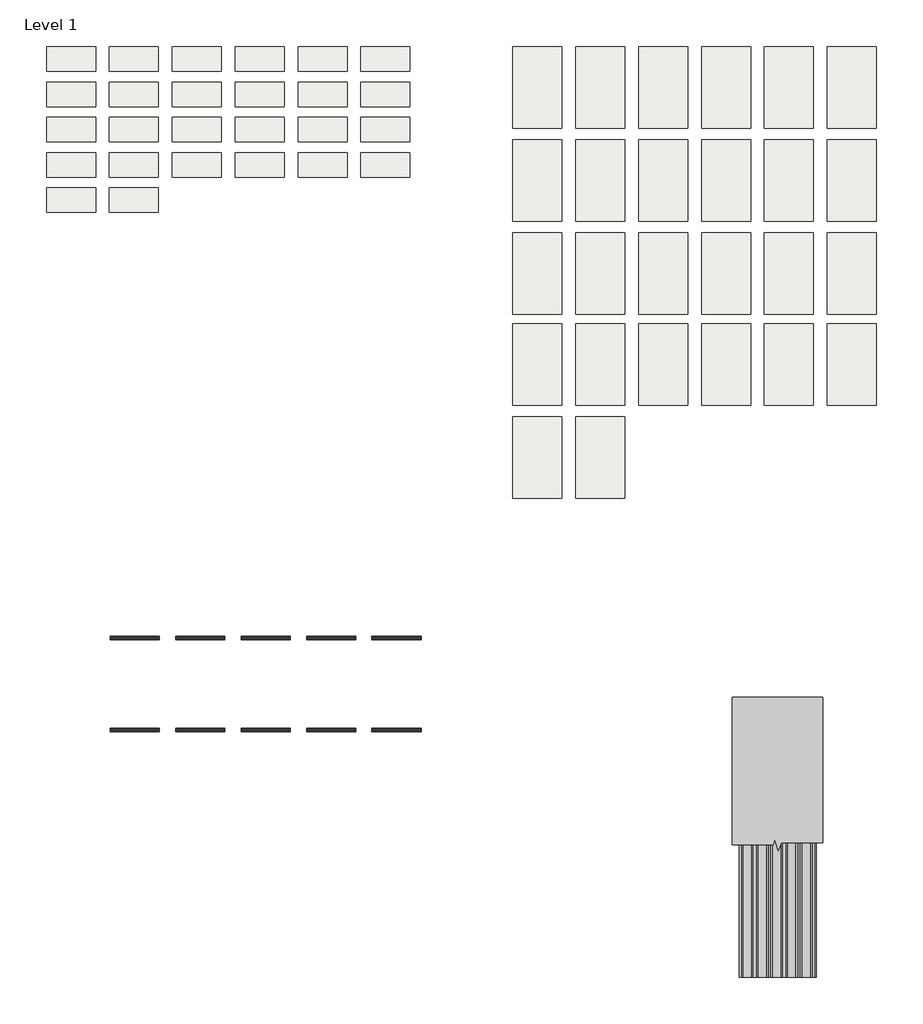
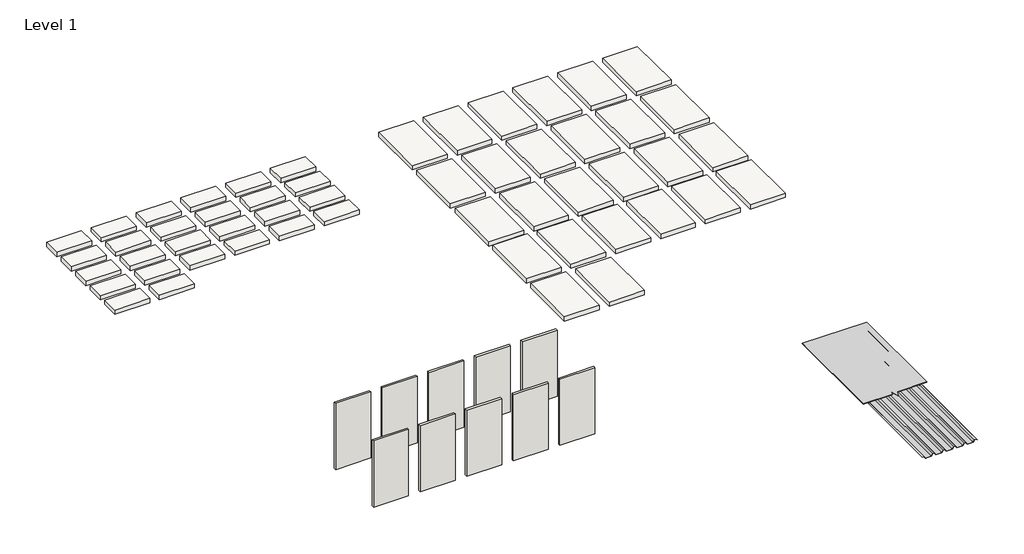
# One storey: 52 slabs, 10 walls, 2 proxies.
"""IFC4 building model written with IfcOpenShell, lengths in millimetres."""

from ifc_helpers import new_model, si_unit, frame, origin, origin_with_axes, place, context, project, spatial, polyline, outline, extrude, transform, mapped, element, save
from components import reversed_box_rib_roofing_panel_reversed_box_rib_roofing_1db7d4b0, section_mask3_section_mask_50256857

model = new_model("IFC4")

# Units and contexts
model_context = context("Model", 3, world=origin())
ifc_project = project(units=[si_unit("LENGTHUNIT", "METRE", prefix="MILLI")], contexts=[model_context])

# Site, building, storey
site = spatial("IfcSite", under=ifc_project)
building = spatial("IfcBuilding", under=site)
storey = spatial("IfcBuildingStorey", under=building, Name="Level 1", Elevation=0.0)

# Proxies
placement = place(None, origin())
reversed_box_rib_roofing_panel_reversed_box_rib_roofing_shape = reversed_box_rib_roofing_panel_reversed_box_rib_roofing_1db7d4b0(model_context)
element("IfcBuildingElementProxy", 1, Name="Reversed_Box_Rib_Roofing_Panel : Reversed_Box_Rib_Roofing_Panel", ObjectType="Reversed_Box_Rib_Roofing_Panel : Reversed_Box_Rib_Roofing_Panel", at=placement, inside=storey, context=model_context, shape_type="MappedRepresentation", body=[
    mapped(reversed_box_rib_roofing_panel_reversed_box_rib_roofing_shape, transform((4154.6424454, -754.1477057, 0.0), x_axis=(1.0, 0.0, 0.0), y_axis=(0.0, 1.0, 0.0), z_axis=(0.0, 0.0, 1.0))),
])
section_mask3_section_mask_shape = section_mask3_section_mask_50256857(model_context)
element("IfcBuildingElementProxy", 2, Name="Section Mask3 : Section Mask", ObjectType="Section Mask3 : Section Mask", at=placement, inside=storey, context=model_context, shape_type="MappedRepresentation", body=[
    mapped(section_mask3_section_mask_shape, transform((-4030.262639, -2993.408036, -1.5875), x_axis=(1.0, 0.0, 0.0), y_axis=(0.0, 1.0, 0.0), z_axis=(0.0, 0.0, 1.0))),
])

# Slabs
element("IfcSlab", 3, ObjectType="AEP Span Material Sample", at=placement, inside=storey, context=model_context, shape_type="SweptSolid", body=[
    extrude(outline(polyline([(-4307.8660775, 7199.3976846), (-4917.4660775, 7199.3976846), (-4917.4660775, 7504.1976846), (-4307.8660775, 7504.1976846), (-4307.8660775, 7199.3976846)])), frame((0.0, 0.0, -79.375), z_axis=(0.0, 0.0, 1.0), x_axis=(1.0, 0.0, 0.0)), (0.0, 0.0, 1.0), 79.375),
])
element("IfcSlab", 4, ObjectType="AEP Span Material Sample", at=placement, inside=storey, context=model_context, shape_type="SweptSolid", body=[
    extrude(outline(polyline([(-3526.8160775, 7199.3976846), (-4136.4160775, 7199.3976846), (-4136.4160775, 7504.1976846), (-3526.8160775, 7504.1976846), (-3526.8160775, 7199.3976846)])), frame((0.0, 0.0, -79.375), z_axis=(0.0, 0.0, 1.0), x_axis=(1.0, 0.0, 0.0)), (0.0, 0.0, 1.0), 79.375),
])
element("IfcSlab", 5, ObjectType="AEP Span Material Sample", at=placement, inside=storey, context=model_context, shape_type="SweptSolid", body=[
    extrude(outline(polyline([(-2745.7660775, 7199.3976846), (-3355.3660775, 7199.3976846), (-3355.3660775, 7504.1976846), (-2745.7660775, 7504.1976846), (-2745.7660775, 7199.3976846)])), frame((0.0, 0.0, -79.375), z_axis=(0.0, 0.0, 1.0), x_axis=(1.0, 0.0, 0.0)), (0.0, 0.0, 1.0), 79.375),
])
element("IfcSlab", 6, ObjectType="AEP Span Material Sample", at=placement, inside=storey, context=model_context, shape_type="SweptSolid", body=[
    extrude(outline(polyline([(-1964.7160775, 7199.3976846), (-2574.3160775, 7199.3976846), (-2574.3160775, 7504.1976846), (-1964.7160775, 7504.1976846), (-1964.7160775, 7199.3976846)])), frame((0.0, 0.0, -79.375), z_axis=(0.0, 0.0, 1.0), x_axis=(1.0, 0.0, 0.0)), (0.0, 0.0, 1.0), 79.375),
])
element("IfcSlab", 7, ObjectType="AEP Span Material Sample", at=placement, inside=storey, context=model_context, shape_type="SweptSolid", body=[
    extrude(outline(polyline([(-1183.6660775, 7199.3976846), (-1793.2660775, 7199.3976846), (-1793.2660775, 7504.1976846), (-1183.6660775, 7504.1976846), (-1183.6660775, 7199.3976846)])), frame((0.0, 0.0, -79.375), z_axis=(0.0, 0.0, 1.0), x_axis=(1.0, 0.0, 0.0)), (0.0, 0.0, 1.0), 79.375),
])
element("IfcSlab", 8, ObjectType="AEP Span Material Sample", at=placement, inside=storey, context=model_context, shape_type="SweptSolid", body=[
    extrude(outline(polyline([(-402.6160775, 7199.3976846), (-1012.2160775, 7199.3976846), (-1012.2160775, 7504.1976846), (-402.6160775, 7504.1976846), (-402.6160775, 7199.3976846)])), frame((0.0, 0.0, -79.375), z_axis=(0.0, 0.0, 1.0), x_axis=(1.0, 0.0, 0.0)), (0.0, 0.0, 1.0), 79.375),
])
element("IfcSlab", 9, ObjectType="AEP Span Material Sample", at=placement, inside=storey, context=model_context, shape_type="SweptSolid", body=[
    extrude(outline(polyline([(-4307.8660775, 6761.2476846), (-4917.4660775, 6761.2476846), (-4917.4660775, 7066.0476846), (-4307.8660775, 7066.0476846), (-4307.8660775, 6761.2476846)])), frame((0.0, 0.0, -79.375), z_axis=(0.0, 0.0, 1.0), x_axis=(1.0, 0.0, 0.0)), (0.0, 0.0, 1.0), 79.375),
])
element("IfcSlab", 10, ObjectType="AEP Span Material Sample", at=placement, inside=storey, context=model_context, shape_type="SweptSolid", body=[
    extrude(outline(polyline([(-3526.8160775, 6761.2476846), (-4136.4160775, 6761.2476846), (-4136.4160775, 7066.0476846), (-3526.8160775, 7066.0476846), (-3526.8160775, 6761.2476846)])), frame((0.0, 0.0, -79.375), z_axis=(0.0, 0.0, 1.0), x_axis=(1.0, 0.0, 0.0)), (0.0, 0.0, 1.0), 79.375),
])
element("IfcSlab", 11, ObjectType="AEP Span Material Sample", at=placement, inside=storey, context=model_context, shape_type="SweptSolid", body=[
    extrude(outline(polyline([(-2745.7660775, 6761.2476846), (-3355.3660775, 6761.2476846), (-3355.3660775, 7066.0476846), (-2745.7660775, 7066.0476846), (-2745.7660775, 6761.2476846)])), frame((0.0, 0.0, -79.375), z_axis=(0.0, 0.0, 1.0), x_axis=(1.0, 0.0, 0.0)), (0.0, 0.0, 1.0), 79.375),
])
element("IfcSlab", 12, ObjectType="AEP Span Material Sample", at=placement, inside=storey, context=model_context, shape_type="SweptSolid", body=[
    extrude(outline(polyline([(-1964.7160775, 6761.2476846), (-2574.3160775, 6761.2476846), (-2574.3160775, 7066.0476846), (-1964.7160775, 7066.0476846), (-1964.7160775, 6761.2476846)])), frame((0.0, 0.0, -79.375), z_axis=(0.0, 0.0, 1.0), x_axis=(1.0, 0.0, 0.0)), (0.0, 0.0, 1.0), 79.375),
])
element("IfcSlab", 13, ObjectType="AEP Span Material Sample", at=placement, inside=storey, context=model_context, shape_type="SweptSolid", body=[
    extrude(outline(polyline([(-1183.6660775, 6761.2476846), (-1793.2660775, 6761.2476846), (-1793.2660775, 7066.0476846), (-1183.6660775, 7066.0476846), (-1183.6660775, 6761.2476846)])), frame((0.0, 0.0, -79.375), z_axis=(0.0, 0.0, 1.0), x_axis=(1.0, 0.0, 0.0)), (0.0, 0.0, 1.0), 79.375),
])
element("IfcSlab", 14, ObjectType="AEP Span Material Sample", at=placement, inside=storey, context=model_context, shape_type="SweptSolid", body=[
    extrude(outline(polyline([(-402.6160775, 6761.2476846), (-1012.2160775, 6761.2476846), (-1012.2160775, 7066.0476846), (-402.6160775, 7066.0476846), (-402.6160775, 6761.2476846)])), frame((0.0, 0.0, -79.375), z_axis=(0.0, 0.0, 1.0), x_axis=(1.0, 0.0, 0.0)), (0.0, 0.0, 1.0), 79.375),
])
element("IfcSlab", 15, ObjectType="AEP Span Material Sample", at=placement, inside=storey, context=model_context, shape_type="SweptSolid", body=[
    extrude(outline(polyline([(-4307.8660775, 6323.0976846), (-4917.4660775, 6323.0976846), (-4917.4660775, 6627.8976846), (-4307.8660775, 6627.8976846), (-4307.8660775, 6323.0976846)])), frame((0.0, 0.0, -79.375), z_axis=(0.0, 0.0, 1.0), x_axis=(1.0, 0.0, 0.0)), (0.0, 0.0, 1.0), 79.375),
])
element("IfcSlab", 16, ObjectType="AEP Span Material Sample", at=placement, inside=storey, context=model_context, shape_type="SweptSolid", body=[
    extrude(outline(polyline([(-3526.8160775, 6323.0976846), (-4136.4160775, 6323.0976846), (-4136.4160775, 6627.8976846), (-3526.8160775, 6627.8976846), (-3526.8160775, 6323.0976846)])), frame((0.0, 0.0, -79.375), z_axis=(0.0, 0.0, 1.0), x_axis=(1.0, 0.0, 0.0)), (0.0, 0.0, 1.0), 79.375),
])
element("IfcSlab", 17, ObjectType="AEP Span Material Sample", at=placement, inside=storey, context=model_context, shape_type="SweptSolid", body=[
    extrude(outline(polyline([(-2745.7660775, 6323.0976846), (-3355.3660775, 6323.0976846), (-3355.3660775, 6627.8976846), (-2745.7660775, 6627.8976846), (-2745.7660775, 6323.0976846)])), frame((0.0, 0.0, -79.375), z_axis=(0.0, 0.0, 1.0), x_axis=(1.0, 0.0, 0.0)), (0.0, 0.0, 1.0), 79.375),
])
element("IfcSlab", 18, ObjectType="AEP Span Material Sample", at=placement, inside=storey, context=model_context, shape_type="SweptSolid", body=[
    extrude(outline(polyline([(-1964.7160775, 6323.0976846), (-2574.3160775, 6323.0976846), (-2574.3160775, 6627.8976846), (-1964.7160775, 6627.8976846), (-1964.7160775, 6323.0976846)])), frame((0.0, 0.0, -79.375), z_axis=(0.0, 0.0, 1.0), x_axis=(1.0, 0.0, 0.0)), (0.0, 0.0, 1.0), 79.375),
])
element("IfcSlab", 19, ObjectType="AEP Span Material Sample", at=placement, inside=storey, context=model_context, shape_type="SweptSolid", body=[
    extrude(outline(polyline([(-1183.6660775, 6323.0976846), (-1793.2660775, 6323.0976846), (-1793.2660775, 6627.8976846), (-1183.6660775, 6627.8976846), (-1183.6660775, 6323.0976846)])), frame((0.0, 0.0, -79.375), z_axis=(0.0, 0.0, 1.0), x_axis=(1.0, 0.0, 0.0)), (0.0, 0.0, 1.0), 79.375),
])
element("IfcSlab", 20, ObjectType="AEP Span Material Sample", at=placement, inside=storey, context=model_context, shape_type="SweptSolid", body=[
    extrude(outline(polyline([(-402.6160775, 6323.0976846), (-1012.2160775, 6323.0976846), (-1012.2160775, 6627.8976846), (-402.6160775, 6627.8976846), (-402.6160775, 6323.0976846)])), frame((0.0, 0.0, -79.375), z_axis=(0.0, 0.0, 1.0), x_axis=(1.0, 0.0, 0.0)), (0.0, 0.0, 1.0), 79.375),
])
element("IfcSlab", 21, ObjectType="AEP Span Material Sample", at=placement, inside=storey, context=model_context, shape_type="SweptSolid", body=[
    extrude(outline(polyline([(-4307.8660775, 5884.9476846), (-4917.4660775, 5884.9476846), (-4917.4660775, 6189.7476846), (-4307.8660775, 6189.7476846), (-4307.8660775, 5884.9476846)])), frame((0.0, 0.0, -79.375), z_axis=(0.0, 0.0, 1.0), x_axis=(1.0, 0.0, 0.0)), (0.0, 0.0, 1.0), 79.375),
])
element("IfcSlab", 22, ObjectType="AEP Span Material Sample", at=placement, inside=storey, context=model_context, shape_type="SweptSolid", body=[
    extrude(outline(polyline([(-3526.8160775, 5884.9476846), (-4136.4160775, 5884.9476846), (-4136.4160775, 6189.7476846), (-3526.8160775, 6189.7476846), (-3526.8160775, 5884.9476846)])), frame((0.0, 0.0, -79.375), z_axis=(0.0, 0.0, 1.0), x_axis=(1.0, 0.0, 0.0)), (0.0, 0.0, 1.0), 79.375),
])
element("IfcSlab", 23, ObjectType="AEP Span Material Sample", at=placement, inside=storey, context=model_context, shape_type="SweptSolid", body=[
    extrude(outline(polyline([(-2745.7660775, 5884.9476846), (-3355.3660775, 5884.9476846), (-3355.3660775, 6189.7476846), (-2745.7660775, 6189.7476846), (-2745.7660775, 5884.9476846)])), frame((0.0, 0.0, -79.375), z_axis=(0.0, 0.0, 1.0), x_axis=(1.0, 0.0, 0.0)), (0.0, 0.0, 1.0), 79.375),
])
element("IfcSlab", 24, ObjectType="AEP Span Material Sample", at=placement, inside=storey, context=model_context, shape_type="SweptSolid", body=[
    extrude(outline(polyline([(-1964.7160775, 5884.9476846), (-2574.3160775, 5884.9476846), (-2574.3160775, 6189.7476846), (-1964.7160775, 6189.7476846), (-1964.7160775, 5884.9476846)])), frame((0.0, 0.0, -79.375), z_axis=(0.0, 0.0, 1.0), x_axis=(1.0, 0.0, 0.0)), (0.0, 0.0, 1.0), 79.375),
])
element("IfcSlab", 25, ObjectType="AEP Span Material Sample", at=placement, inside=storey, context=model_context, shape_type="SweptSolid", body=[
    extrude(outline(polyline([(-1183.6660775, 5884.9476846), (-1793.2660775, 5884.9476846), (-1793.2660775, 6189.7476846), (-1183.6660775, 6189.7476846), (-1183.6660775, 5884.9476846)])), frame((0.0, 0.0, -79.375), z_axis=(0.0, 0.0, 1.0), x_axis=(1.0, 0.0, 0.0)), (0.0, 0.0, 1.0), 79.375),
])
element("IfcSlab", 26, ObjectType="AEP Span Material Sample", at=placement, inside=storey, context=model_context, shape_type="SweptSolid", body=[
    extrude(outline(polyline([(-402.6160775, 5884.9476846), (-1012.2160775, 5884.9476846), (-1012.2160775, 6189.7476846), (-402.6160775, 6189.7476846), (-402.6160775, 5884.9476846)])), frame((0.0, 0.0, -79.375), z_axis=(0.0, 0.0, 1.0), x_axis=(1.0, 0.0, 0.0)), (0.0, 0.0, 1.0), 79.375),
])
element("IfcSlab", 27, ObjectType="AEP Span Material Sample", at=placement, inside=storey, context=model_context, shape_type="SweptSolid", body=[
    extrude(outline(polyline([(-4307.8660775, 5446.7976846), (-4917.4660775, 5446.7976846), (-4917.4660775, 5751.5976846), (-4307.8660775, 5751.5976846), (-4307.8660775, 5446.7976846)])), frame((0.0, 0.0, -79.375), z_axis=(0.0, 0.0, 1.0), x_axis=(1.0, 0.0, 0.0)), (0.0, 0.0, 1.0), 79.375),
])
element("IfcSlab", 28, ObjectType="AEP Span Material Sample", at=placement, inside=storey, context=model_context, shape_type="SweptSolid", body=[
    extrude(outline(polyline([(-3526.8160775, 5446.7976846), (-4136.4160775, 5446.7976846), (-4136.4160775, 5751.5976846), (-3526.8160775, 5751.5976846), (-3526.8160775, 5446.7976846)])), frame((0.0, 0.0, -79.375), z_axis=(0.0, 0.0, 1.0), x_axis=(1.0, 0.0, 0.0)), (0.0, 0.0, 1.0), 79.375),
])
element("IfcSlab", 29, ObjectType="AEP Span Material Sample", at=placement, inside=storey, context=model_context, shape_type="SweptSolid", body=[
    extrude(outline(polyline([(1485.5495194, 6492.0895229), (875.9495194, 6492.0895229), (875.9495194, 7508.0895229), (1485.5495194, 7508.0895229), (1485.5495194, 6492.0895229)])), frame((0.0, 0.0, -79.375), z_axis=(0.0, 0.0, 1.0), x_axis=(1.0, 0.0, 0.0)), (0.0, 0.0, 1.0), 79.375),
])
element("IfcSlab", 30, ObjectType="AEP Span Material Sample", at=placement, inside=storey, context=model_context, shape_type="SweptSolid", body=[
    extrude(outline(polyline([(2266.5995194, 6492.0895229), (1656.9995194, 6492.0895229), (1656.9995194, 7508.0895229), (2266.5995194, 7508.0895229), (2266.5995194, 6492.0895229)])), frame((0.0, 0.0, -79.375), z_axis=(0.0, 0.0, 1.0), x_axis=(1.0, 0.0, 0.0)), (0.0, 0.0, 1.0), 79.375),
])
element("IfcSlab", 31, ObjectType="AEP Span Material Sample", at=placement, inside=storey, context=model_context, shape_type="SweptSolid", body=[
    extrude(outline(polyline([(3047.6495194, 6492.0895229), (2438.0495194, 6492.0895229), (2438.0495194, 7508.0895229), (3047.6495194, 7508.0895229), (3047.6495194, 6492.0895229)])), frame((0.0, 0.0, -79.375), z_axis=(0.0, 0.0, 1.0), x_axis=(1.0, 0.0, 0.0)), (0.0, 0.0, 1.0), 79.375),
])
element("IfcSlab", 32, ObjectType="AEP Span Material Sample", at=placement, inside=storey, context=model_context, shape_type="SweptSolid", body=[
    extrude(outline(polyline([(3828.6995194, 6492.0895229), (3219.0995194, 6492.0895229), (3219.0995194, 7508.0895229), (3828.6995194, 7508.0895229), (3828.6995194, 6492.0895229)])), frame((0.0, 0.0, -79.375), z_axis=(0.0, 0.0, 1.0), x_axis=(1.0, 0.0, 0.0)), (0.0, 0.0, 1.0), 79.375),
])
element("IfcSlab", 33, ObjectType="AEP Span Material Sample", at=placement, inside=storey, context=model_context, shape_type="SweptSolid", body=[
    extrude(outline(polyline([(4609.7495194, 6492.0895229), (4000.1495194, 6492.0895229), (4000.1495194, 7508.0895229), (4609.7495194, 7508.0895229), (4609.7495194, 6492.0895229)])), frame((0.0, 0.0, -79.375), z_axis=(0.0, 0.0, 1.0), x_axis=(1.0, 0.0, 0.0)), (0.0, 0.0, 1.0), 79.375),
])
element("IfcSlab", 34, ObjectType="AEP Span Material Sample", at=placement, inside=storey, context=model_context, shape_type="SweptSolid", body=[
    extrude(outline(polyline([(5390.7995194, 6492.0895229), (4781.1995194, 6492.0895229), (4781.1995194, 7508.0895229), (5390.7995194, 7508.0895229), (5390.7995194, 6492.0895229)])), frame((0.0, 0.0, -79.375), z_axis=(0.0, 0.0, 1.0), x_axis=(1.0, 0.0, 0.0)), (0.0, 0.0, 1.0), 79.375),
])
element("IfcSlab", 35, ObjectType="AEP Span Material Sample", at=placement, inside=storey, context=model_context, shape_type="SweptSolid", body=[
    extrude(outline(polyline([(1485.5495194, 5336.3895229), (875.9495194, 5336.3895229), (875.9495194, 6352.3895229), (1485.5495194, 6352.3895229), (1485.5495194, 5336.3895229)])), frame((0.0, 0.0, -79.375), z_axis=(0.0, 0.0, 1.0), x_axis=(1.0, 0.0, 0.0)), (0.0, 0.0, 1.0), 79.375),
])
element("IfcSlab", 36, ObjectType="AEP Span Material Sample", at=placement, inside=storey, context=model_context, shape_type="SweptSolid", body=[
    extrude(outline(polyline([(2266.5995194, 5336.3895229), (1656.9995194, 5336.3895229), (1656.9995194, 6352.3895229), (2266.5995194, 6352.3895229), (2266.5995194, 5336.3895229)])), frame((0.0, 0.0, -79.375), z_axis=(0.0, 0.0, 1.0), x_axis=(1.0, 0.0, 0.0)), (0.0, 0.0, 1.0), 79.375),
])
element("IfcSlab", 37, ObjectType="AEP Span Material Sample", at=placement, inside=storey, context=model_context, shape_type="SweptSolid", body=[
    extrude(outline(polyline([(3047.6495194, 5336.3895229), (2438.0495194, 5336.3895229), (2438.0495194, 6352.3895229), (3047.6495194, 6352.3895229), (3047.6495194, 5336.3895229)])), frame((0.0, 0.0, -79.375), z_axis=(0.0, 0.0, 1.0), x_axis=(1.0, 0.0, 0.0)), (0.0, 0.0, 1.0), 79.375),
])
element("IfcSlab", 38, ObjectType="AEP Span Material Sample", at=placement, inside=storey, context=model_context, shape_type="SweptSolid", body=[
    extrude(outline(polyline([(3828.6995194, 5336.3895229), (3219.0995194, 5336.3895229), (3219.0995194, 6352.3895229), (3828.6995194, 6352.3895229), (3828.6995194, 5336.3895229)])), frame((0.0, 0.0, -79.375), z_axis=(0.0, 0.0, 1.0), x_axis=(1.0, 0.0, 0.0)), (0.0, 0.0, 1.0), 79.375),
])
element("IfcSlab", 39, ObjectType="AEP Span Material Sample", at=placement, inside=storey, context=model_context, shape_type="SweptSolid", body=[
    extrude(outline(polyline([(4609.7495194, 5336.3895229), (4000.1495194, 5336.3895229), (4000.1495194, 6352.3895229), (4609.7495194, 6352.3895229), (4609.7495194, 5336.3895229)])), frame((0.0, 0.0, -79.375), z_axis=(0.0, 0.0, 1.0), x_axis=(1.0, 0.0, 0.0)), (0.0, 0.0, 1.0), 79.375),
])
element("IfcSlab", 40, ObjectType="AEP Span Material Sample", at=placement, inside=storey, context=model_context, shape_type="SweptSolid", body=[
    extrude(outline(polyline([(5390.7995194, 5336.3895229), (4781.1995194, 5336.3895229), (4781.1995194, 6352.3895229), (5390.7995194, 6352.3895229), (5390.7995194, 5336.3895229)])), frame((0.0, 0.0, -79.375), z_axis=(0.0, 0.0, 1.0), x_axis=(1.0, 0.0, 0.0)), (0.0, 0.0, 1.0), 79.375),
])
element("IfcSlab", 41, ObjectType="AEP Span Material Sample", at=placement, inside=storey, context=model_context, shape_type="SweptSolid", body=[
    extrude(outline(polyline([(1485.5495194, 4180.6895229), (875.9495194, 4180.6895229), (875.9495194, 5196.6895229), (1485.5495194, 5196.6895229), (1485.5495194, 4180.6895229)])), frame((0.0, 0.0, -79.375), z_axis=(0.0, 0.0, 1.0), x_axis=(1.0, 0.0, 0.0)), (0.0, 0.0, 1.0), 79.375),
])
element("IfcSlab", 42, ObjectType="AEP Span Material Sample", at=placement, inside=storey, context=model_context, shape_type="SweptSolid", body=[
    extrude(outline(polyline([(2266.5995194, 4180.6895229), (1656.9995194, 4180.6895229), (1656.9995194, 5196.6895229), (2266.5995194, 5196.6895229), (2266.5995194, 4180.6895229)])), frame((0.0, 0.0, -79.375), z_axis=(0.0, 0.0, 1.0), x_axis=(1.0, 0.0, 0.0)), (0.0, 0.0, 1.0), 79.375),
])
element("IfcSlab", 43, ObjectType="AEP Span Material Sample", at=placement, inside=storey, context=model_context, shape_type="SweptSolid", body=[
    extrude(outline(polyline([(3047.6495194, 4180.6895229), (2438.0495194, 4180.6895229), (2438.0495194, 5196.6895229), (3047.6495194, 5196.6895229), (3047.6495194, 4180.6895229)])), frame((0.0, 0.0, -79.375), z_axis=(0.0, 0.0, 1.0), x_axis=(1.0, 0.0, 0.0)), (0.0, 0.0, 1.0), 79.375),
])
element("IfcSlab", 44, ObjectType="AEP Span Material Sample", at=placement, inside=storey, context=model_context, shape_type="SweptSolid", body=[
    extrude(outline(polyline([(3828.6995194, 4180.6895229), (3219.0995194, 4180.6895229), (3219.0995194, 5196.6895229), (3828.6995194, 5196.6895229), (3828.6995194, 4180.6895229)])), frame((0.0, 0.0, -79.375), z_axis=(0.0, 0.0, 1.0), x_axis=(1.0, 0.0, 0.0)), (0.0, 0.0, 1.0), 79.375),
])
element("IfcSlab", 45, ObjectType="AEP Span Material Sample", at=placement, inside=storey, context=model_context, shape_type="SweptSolid", body=[
    extrude(outline(polyline([(4609.7495194, 4180.6895229), (4000.1495194, 4180.6895229), (4000.1495194, 5196.6895229), (4609.7495194, 5196.6895229), (4609.7495194, 4180.6895229)])), frame((0.0, 0.0, -79.375), z_axis=(0.0, 0.0, 1.0), x_axis=(1.0, 0.0, 0.0)), (0.0, 0.0, 1.0), 79.375),
])
element("IfcSlab", 46, ObjectType="AEP Span Material Sample", at=placement, inside=storey, context=model_context, shape_type="SweptSolid", body=[
    extrude(outline(polyline([(5390.7995194, 4180.6895229), (4781.1995194, 4180.6895229), (4781.1995194, 5196.6895229), (5390.7995194, 5196.6895229), (5390.7995194, 4180.6895229)])), frame((0.0, 0.0, -79.375), z_axis=(0.0, 0.0, 1.0), x_axis=(1.0, 0.0, 0.0)), (0.0, 0.0, 1.0), 79.375),
])
element("IfcSlab", 47, ObjectType="AEP Span Material Sample", at=placement, inside=storey, context=model_context, shape_type="SweptSolid", body=[
    extrude(outline(polyline([(1485.5495194, 3050.3895229), (875.9495194, 3050.3895229), (875.9495194, 4066.3895229), (1485.5495194, 4066.3895229), (1485.5495194, 3050.3895229)])), frame((0.0, 0.0, -79.375), z_axis=(0.0, 0.0, 1.0), x_axis=(1.0, 0.0, 0.0)), (0.0, 0.0, 1.0), 79.375),
])
element("IfcSlab", 48, ObjectType="AEP Span Material Sample", at=placement, inside=storey, context=model_context, shape_type="SweptSolid", body=[
    extrude(outline(polyline([(2266.5995194, 3050.3895229), (1656.9995194, 3050.3895229), (1656.9995194, 4066.3895229), (2266.5995194, 4066.3895229), (2266.5995194, 3050.3895229)])), frame((0.0, 0.0, -79.375), z_axis=(0.0, 0.0, 1.0), x_axis=(1.0, 0.0, 0.0)), (0.0, 0.0, 1.0), 79.375),
])
element("IfcSlab", 49, ObjectType="AEP Span Material Sample", at=placement, inside=storey, context=model_context, shape_type="SweptSolid", body=[
    extrude(outline(polyline([(3047.6495194, 3050.3895229), (2438.0495194, 3050.3895229), (2438.0495194, 4066.3895229), (3047.6495194, 4066.3895229), (3047.6495194, 3050.3895229)])), frame((0.0, 0.0, -79.375), z_axis=(0.0, 0.0, 1.0), x_axis=(1.0, 0.0, 0.0)), (0.0, 0.0, 1.0), 79.375),
])
element("IfcSlab", 50, ObjectType="AEP Span Material Sample", at=placement, inside=storey, context=model_context, shape_type="SweptSolid", body=[
    extrude(outline(polyline([(3828.6995194, 3050.3895229), (3219.0995194, 3050.3895229), (3219.0995194, 4066.3895229), (3828.6995194, 4066.3895229), (3828.6995194, 3050.3895229)])), frame((0.0, 0.0, -79.375), z_axis=(0.0, 0.0, 1.0), x_axis=(1.0, 0.0, 0.0)), (0.0, 0.0, 1.0), 79.375),
])
element("IfcSlab", 51, ObjectType="AEP Span Material Sample", at=placement, inside=storey, context=model_context, shape_type="SweptSolid", body=[
    extrude(outline(polyline([(4609.7495194, 3050.3895229), (4000.1495194, 3050.3895229), (4000.1495194, 4066.3895229), (4609.7495194, 4066.3895229), (4609.7495194, 3050.3895229)])), frame((0.0, 0.0, -79.375), z_axis=(0.0, 0.0, 1.0), x_axis=(1.0, 0.0, 0.0)), (0.0, 0.0, 1.0), 79.375),
])
element("IfcSlab", 52, ObjectType="AEP Span Material Sample", at=placement, inside=storey, context=model_context, shape_type="SweptSolid", body=[
    extrude(outline(polyline([(5390.7995194, 3050.3895229), (4781.1995194, 3050.3895229), (4781.1995194, 4066.3895229), (5390.7995194, 4066.3895229), (5390.7995194, 3050.3895229)])), frame((0.0, 0.0, -79.375), z_axis=(0.0, 0.0, 1.0), x_axis=(1.0, 0.0, 0.0)), (0.0, 0.0, 1.0), 79.375),
])
element("IfcSlab", 53, ObjectType="AEP Span Material Sample", at=placement, inside=storey, context=model_context, shape_type="SweptSolid", body=[
    extrude(outline(polyline([(1485.5495194, 1894.6895229), (875.9495194, 1894.6895229), (875.9495194, 2910.6895229), (1485.5495194, 2910.6895229), (1485.5495194, 1894.6895229)])), frame((0.0, 0.0, -79.375), z_axis=(0.0, 0.0, 1.0), x_axis=(1.0, 0.0, 0.0)), (0.0, 0.0, 1.0), 79.375),
])
element("IfcSlab", 54, ObjectType="AEP Span Material Sample", at=placement, inside=storey, context=model_context, shape_type="SweptSolid", body=[
    extrude(outline(polyline([(2266.5995194, 1894.6895229), (1656.9995194, 1894.6895229), (1656.9995194, 2910.6895229), (2266.5995194, 2910.6895229), (2266.5995194, 1894.6895229)])), frame((0.0, 0.0, -79.375), z_axis=(0.0, 0.0, 1.0), x_axis=(1.0, 0.0, 0.0)), (0.0, 0.0, 1.0), 79.375),
])

# Walls
element("IfcWall", 55, ObjectType="36\" Reversed Box Rib Horizontal - 18ga", at=placement, inside=storey, context=model_context, shape_type="SweptSolid", body=[
    extrude(outline(polyline([(-3516.1575546, 141.2022943), (-4125.7575546, 141.2022943), (-4125.7575546, 179.3022943), (-3516.1575546, 179.3022943), (-3516.1575546, 141.2022943)])), origin_with_axes(), (0.0, 0.0, 1.0), 1219.2),
])
element("IfcWall", 56, ObjectType="36\" Reversed Box Rib Horizontal - 20ga", at=placement, inside=storey, context=model_context, shape_type="SweptSolid", body=[
    extrude(outline(polyline([(-2703.3575546, 141.2022943), (-3312.9575546, 141.2022943), (-3312.9575546, 179.3022943), (-2703.3575546, 179.3022943), (-2703.3575546, 141.2022943)])), origin_with_axes(), (0.0, 0.0, 1.0), 1219.2),
])
element("IfcWall", 57, ObjectType="36\" Reversed Box Rib Horizontal - 22ga", at=placement, inside=storey, context=model_context, shape_type="SweptSolid", body=[
    extrude(outline(polyline([(-1890.5575546, 141.2022943), (-2500.1575546, 141.2022943), (-2500.1575546, 179.3022943), (-1890.5575546, 179.3022943), (-1890.5575546, 141.2022943)])), origin_with_axes(), (0.0, 0.0, 1.0), 1219.2),
])
element("IfcWall", 58, ObjectType="36\" Reversed Box Rib Horizontal - 24ga", at=placement, inside=storey, context=model_context, shape_type="SweptSolid", body=[
    extrude(outline(polyline([(-1077.7575546, 141.2022943), (-1687.3575546, 141.2022943), (-1687.3575546, 179.3022943), (-1077.7575546, 179.3022943), (-1077.7575546, 141.2022943)])), origin_with_axes(), (0.0, 0.0, 1.0), 1219.2),
])
element("IfcWall", 59, ObjectType="36\" Reversed Box Rib Horizontal - 26ga", at=placement, inside=storey, context=model_context, shape_type="SweptSolid", body=[
    extrude(outline(polyline([(-264.9575546, 141.2022943), (-874.5575546, 141.2022943), (-874.5575546, 179.3022943), (-264.9575546, 179.3022943), (-264.9575546, 141.2022943)])), origin_with_axes(), (0.0, 0.0, 1.0), 1219.2),
])
element("IfcWall", 60, ObjectType="36\" Reversed Box Rib Vertical - 18ga", at=placement, inside=storey, context=model_context, shape_type="SweptSolid", body=[
    extrude(outline(polyline([(-3516.1575546, -1001.7977057), (-4125.7575546, -1001.7977057), (-4125.7575546, -963.6977057), (-3516.1575546, -963.6977057), (-3516.1575546, -1001.7977057)])), origin_with_axes(), (0.0, 0.0, 1.0), 1219.2),
])
element("IfcWall", 61, ObjectType="36\" Reversed Box Rib Vertical - 20ga", at=placement, inside=storey, context=model_context, shape_type="SweptSolid", body=[
    extrude(outline(polyline([(-2703.3575546, -1001.7977057), (-3312.9575546, -1001.7977057), (-3312.9575546, -963.6977057), (-2703.3575546, -963.6977057), (-2703.3575546, -1001.7977057)])), origin_with_axes(), (0.0, 0.0, 1.0), 1219.2),
])
element("IfcWall", 62, ObjectType="36\" Reversed Box Rib Vertical - 22ga", at=placement, inside=storey, context=model_context, shape_type="SweptSolid", body=[
    extrude(outline(polyline([(-1890.5575546, -1001.7977057), (-2500.1575546, -1001.7977057), (-2500.1575546, -963.6977057), (-1890.5575546, -963.6977057), (-1890.5575546, -1001.7977057)])), origin_with_axes(), (0.0, 0.0, 1.0), 1219.2),
])
element("IfcWall", 63, ObjectType="36\" Reversed Box Rib Vertical - 24ga", at=placement, inside=storey, context=model_context, shape_type="SweptSolid", body=[
    extrude(outline(polyline([(-1077.7575546, -1001.7977057), (-1687.3575546, -1001.7977057), (-1687.3575546, -963.6977057), (-1077.7575546, -963.6977057), (-1077.7575546, -1001.7977057)])), origin_with_axes(), (0.0, 0.0, 1.0), 1219.2),
])
element("IfcWall", 64, ObjectType="36\" Reversed Box Rib Vertical - 26ga", at=placement, inside=storey, context=model_context, shape_type="SweptSolid", body=[
    extrude(outline(polyline([(-264.9575546, -1001.7977057), (-874.5575546, -1001.7977057), (-874.5575546, -963.6977057), (-264.9575546, -963.6977057), (-264.9575546, -1001.7977057)])), origin_with_axes(), (0.0, 0.0, 1.0), 1219.2),
])

save(model, "model.ifc")
